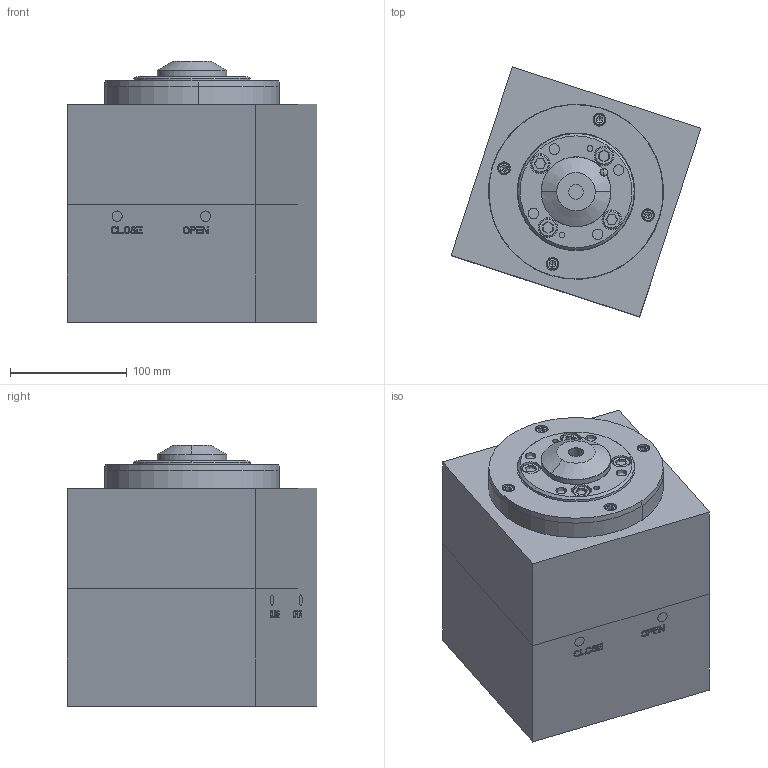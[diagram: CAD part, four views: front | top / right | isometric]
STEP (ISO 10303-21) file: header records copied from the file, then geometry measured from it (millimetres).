
FILE_DESCRIPTION((''),'2;1');
FILE_NAME('99M0009_ASM','2018-06-11T',('alessio.puddu'),('Thermoplay S.p.A.'),'PRO/ENGINEER BY PARAMETRIC TECHNOLOGY CORPORATION, 2014200','PRO/ENGINEER BY PARAMETRIC TECHNOLOGY CORPORATION, 2014200','');
FILE_SCHEMA(('CONFIG_CONTROL_DESIGN'));
Products named in the file (6): MG46101-3B-G-55-R000-JG; MG46-3B-PPU-WEB; MG46-3B-PSUP-WEB; MG46-3B-AC-WEB; MG46-3B-TAGLIO-WEB; 99M0009_ASM
Assembly tree (5 placements, depth 2):
  99M0009_ASM
    MG46101-3B-G-55-R000-JG
    MG46-3B-PPU-WEB
    MG46-3B-PSUP-WEB
    MG46-3B-AC-WEB
    MG46-3B-TAGLIO-WEB
Bounding box: 214.21 x 214.21 x 223.9 mm (x, y, z)
Volume: 6671697.5 mm3; surface area: 594425.3 mm2
Topology: 22 solids, 26 shells, 2722 faces, 6871 edges, 4240 vertices
Faces by surface type: plane 1230, cylinder 816, cone 315, bspline 183, torus 126, sphere 44, revolution 8
Entity records: 111531 total; most frequent: CARTESIAN_POINT 40841, ORIENTED_EDGE 13562, DIRECTION 12761, EDGE_CURVE 6781, AXIS2_PLACEMENT_3D 4575, VERTEX_POINT 4240, VECTOR 3603, LINE 3603
